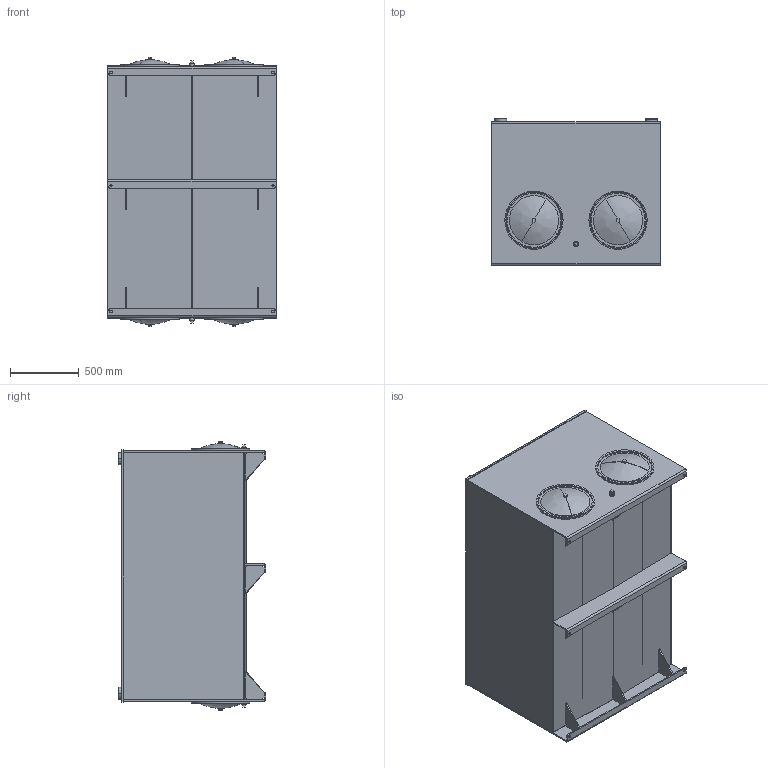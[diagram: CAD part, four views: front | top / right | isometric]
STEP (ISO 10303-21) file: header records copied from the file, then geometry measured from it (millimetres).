
FILE_DESCRIPTION (( 'STEP AP214' ), '1' );
FILE_NAME ('TJ-500-ASSEMBLY.STEP', '2026-04-22T13:38:20', ( '' ), ( '' ), 'SwSTEP 2.0', 'SolidWorks 2026', '' );
FILE_SCHEMA (( 'AUTOMOTIVE_DESIGN' ));
Length unit declared in the file: inch
Products named in the file (19): FILLER RISER; TJ-500-GST-2; TJ-500-BFL; TJ-500-EB; 16.00 END COVER ASSEMBLY; 16.00 END COVER; TJ-500-ASSEMBLY; 16.00 GASKET; TJ-500-LD; TJ-500-BDYB; 0.750 NPT HALF COUPLING 3000#; CRUSH WASHER; TJ-500-FS; TJ-500-EA; TJ-500-BDYA; TJ-500-GST-1; 0.625 - 11 BAFFLE NUT; 0.625 - 11 HEX BOLT; 0.750 NPT PLUG
Assembly tree (33 placements, depth 3):
  TJ-500-ASSEMBLY
    TJ-500-BDYB  x2
    TJ-500-BDYA
    TJ-500-EA
    TJ-500-EB
    TJ-500-BFL  x2
    16.00 END COVER ASSEMBLY  x4
      16.00 END COVER
      16.00 GASKET
      CRUSH WASHER
      0.625 - 11 HEX BOLT
      0.625 - 11 BAFFLE NUT
    TJ-500-LD
    TJ-500-FS
    TJ-500-GST-1  x6
    TJ-500-GST-2  x3
    0.750 NPT HALF COUPLING 3000#  x2
    0.750 NPT PLUG  x2
    FILLER RISER  x2
Bounding box: 1219.2 x 1066.67 x 1950.7 mm (x, y, z)
Volume: 96050291.8 mm3; surface area: 28383661.9 mm2
Topology: 44 solids, 44 shells, 520 faces, 1210 edges, 792 vertices
Faces by surface type: plane 295, cylinder 193, bspline 16, cone 12, torus 4
Entity records: 7950 total; most frequent: DIRECTION 1337, CARTESIAN_POINT 1284, ORIENTED_EDGE 1146, EDGE_CURVE 573, AXIS2_PLACEMENT_3D 493, VERTEX_POINT 370, VECTOR 351, LINE 351
